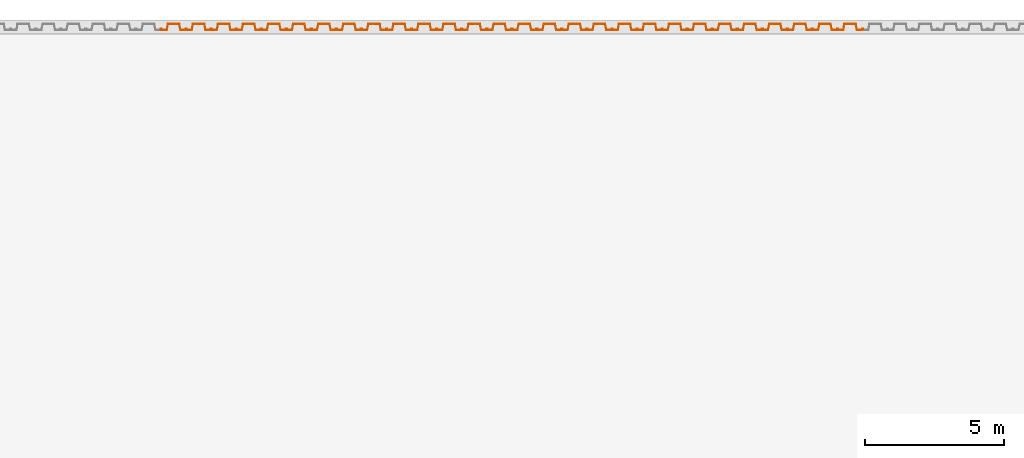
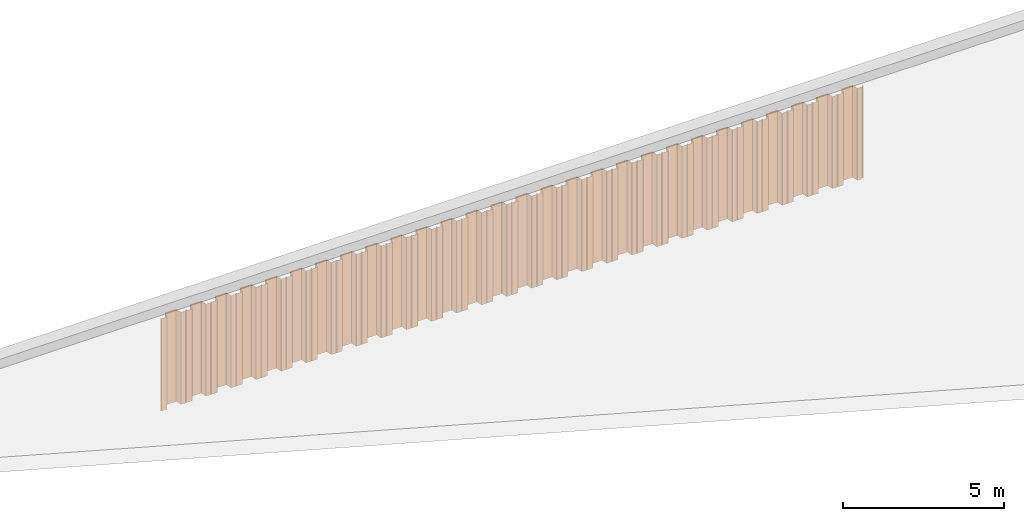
# One storey, part 16 of 32: 28 proxies.
"""IFC2X3 building model written with IfcOpenShell, lengths in millimetres."""

from ifc_helpers import new_model, entity, si_unit, converted_unit, derived_unit, direction, frame, frame_2d, origin, place, context, subcontext, project, spatial, polyline, circle_curve, parameter, trimmed, segment, composite_curve, outline, extrude, source, transform, mapped, type_object, type_shapes, element, save


model = new_model("IFC2X3")

# Units and contexts
model_context = context("Model", 3, precision=0.01, world=origin(), true_north=direction((6.12303176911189e-17, 1.0)))
body_context = subcontext(model_context, "Body", "Model", "MODEL_VIEW")
ifc_project = project(units=[si_unit("LENGTHUNIT", "METRE", prefix="MILLI"), si_unit("AREAUNIT", "SQUARE_METRE"), si_unit("VOLUMEUNIT", "CUBIC_METRE"), converted_unit("PLANEANGLEUNIT", "DEGREE", entity("IfcRatioMeasure", 0.0174532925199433), si_unit("PLANEANGLEUNIT", "RADIAN"), dimensions=[0, 0, 0, 0, 0, 0, 0]), si_unit("MASSUNIT", "GRAM", prefix="KILO"), derived_unit("MASSDENSITYUNIT", [(si_unit("MASSUNIT", "GRAM", prefix="KILO"), 1), (si_unit("LENGTHUNIT", "METRE"), -3)]), si_unit("TIMEUNIT", "SECOND"), si_unit("FREQUENCYUNIT", "HERTZ"), si_unit("THERMODYNAMICTEMPERATUREUNIT", "DEGREE_CELSIUS"), derived_unit("THERMALTRANSMITTANCEUNIT", [(si_unit("MASSUNIT", "GRAM", prefix="KILO"), 1), (si_unit("THERMODYNAMICTEMPERATUREUNIT", "KELVIN"), -1), (si_unit("TIMEUNIT", "SECOND"), -3)]), derived_unit("VOLUMETRICFLOWRATEUNIT", [(si_unit("LENGTHUNIT", "METRE"), 3), (si_unit("TIMEUNIT", "SECOND"), -1)]), si_unit("ELECTRICCURRENTUNIT", "AMPERE"), si_unit("ELECTRICVOLTAGEUNIT", "VOLT"), si_unit("POWERUNIT", "WATT"), si_unit("FORCEUNIT", "NEWTON", prefix="KILO"), si_unit("ILLUMINANCEUNIT", "LUX"), si_unit("LUMINOUSFLUXUNIT", "LUMEN"), si_unit("LUMINOUSINTENSITYUNIT", "CANDELA"), derived_unit("USERDEFINED", [(si_unit("MASSUNIT", "GRAM", prefix="KILO"), -1), (si_unit("LENGTHUNIT", "METRE"), -2), (si_unit("TIMEUNIT", "SECOND"), 3), (si_unit("LUMINOUSFLUXUNIT", "LUMEN"), 1)]), derived_unit("LINEARVELOCITYUNIT", [(si_unit("LENGTHUNIT", "METRE"), 1), (si_unit("TIMEUNIT", "SECOND"), -1)]), si_unit("PRESSUREUNIT", "PASCAL"), derived_unit("USERDEFINED", [(si_unit("LENGTHUNIT", "METRE"), -2), (si_unit("MASSUNIT", "GRAM", prefix="KILO"), 1), (si_unit("TIMEUNIT", "SECOND"), -2)])], contexts=[model_context])

# Site, building, storey
site_placement = place(None, origin())
site = spatial("IfcSite", under=ifc_project, at=site_placement, Name="Default", CompositionType="ELEMENT")
building_placement = place(site_placement, origin())
building = spatial("IfcBuilding", under=site, at=building_placement, CompositionType="ELEMENT")
storey_placement = place(building_placement, origin())
storey = spatial("IfcBuildingStorey", under=building, at=storey_placement, Name="矢板", CompositionType="ELEMENT", Elevation=0.0)

# Proxies
building_element_proxy_type = type_object("IfcBuildingElementProxyType", Name="鋼矢板10H型", PredefinedType="NOTDEFINED")
shared_shape = source(origin(), body_context, "Body", "SweptSolid", [
    extrude(outline(composite_curve([segment(trimmed(circle_curve(frame_2d((85.3662976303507, 306.644432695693), x_axis=(0.422618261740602, 0.906307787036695)), 13.885714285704), [parameter(24.9999999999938)], [parameter(90.0000000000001)], True, "PARAMETER"), True, "CONTINUOUS"), segment(polyline([(72.7815666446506, 312.512789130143), (9.8129512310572, 177.476157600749)]), True, "CONTINUOUS"), segment(trimmed(circle_curve(frame_2d((29.3891994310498, 168.347603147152), x_axis=(0.422618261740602, 0.906307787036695)), 21.6), [parameter(90.0000000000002)], [parameter(168.69006752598)], True, "PARAMETER"), True, "CONTINUOUS"), segment(polyline([(16.598697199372, 150.941769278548), (175.329723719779, 34.2998683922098)]), True, "CONTINUOUS"), segment(trimmed(circle_curve(frame_2d((168.93447260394, 25.596951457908), x_axis=(0.422618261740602, 0.906307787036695)), 10.7999999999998), [parameter(270.0)], [parameter(348.690067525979)], True, "PARAMETER"), False, "CONTINUOUS"), segment(polyline([(178.722596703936, 21.0326742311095), (18.2974003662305, -323.000269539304)]), True, "CONTINUOUS"), segment(trimmed(circle_curve(frame_2d((8.50927626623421, -318.435992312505), x_axis=(0.422618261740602, 0.906307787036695)), 10.8), [parameter(191.30993247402)], [parameter(269.999999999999)], True, "PARAMETER"), False, "CONTINUOUS"), segment(polyline([(5.95324328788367, -328.929166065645), (-185.429973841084, -282.310113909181)]), True, "CONTINUOUS"), segment(trimmed(circle_curve(frame_2d((-190.542039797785, -303.296461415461), x_axis=(0.422618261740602, 0.906307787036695)), 21.6000000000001), [parameter(11.3099324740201)], [parameter(90.0000000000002)], True, "PARAMETER"), True, "CONTINUOUS"), segment(polyline([(-210.118287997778, -294.167906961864), (-290.330886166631, -466.184378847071)]), True, "CONTINUOUS"), segment(trimmed(circle_curve(frame_2d((-270.754637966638, -475.312933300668), x_axis=(0.422618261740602, 0.906307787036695)), 21.6), [parameter(90.0000000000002)], [parameter(269.999999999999)], True, "PARAMETER"), True, "CONTINUOUS"), segment(polyline([(-251.178389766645, -484.441487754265), (-249.065298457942, -479.909948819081)]), True, "CONTINUOUS"), segment(polyline([(-249.065298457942, -479.909948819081), (-258.853422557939, -475.345671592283)]), True, "CONTINUOUS"), segment(polyline([(-258.853422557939, -475.345671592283), (-260.966513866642, -479.877210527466)]), True, "CONTINUOUS"), segment(trimmed(circle_curve(frame_2d((-270.754637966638, -475.312933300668), x_axis=(0.422618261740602, 0.906307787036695)), 10.8), [parameter(90.0000000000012)], [parameter(270.0)], True, "PARAMETER"), False, "CONTINUOUS"), segment(polyline([(-280.542762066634, -470.748656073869), (-200.330163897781, -298.732184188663)]), True, "CONTINUOUS"), segment(trimmed(circle_curve(frame_2d((-190.542039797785, -303.296461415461), x_axis=(0.422618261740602, 0.906307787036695)), 10.8), [parameter(11.3099324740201)], [parameter(89.9999999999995)], True, "PARAMETER"), False, "CONTINUOUS"), segment(polyline([(-187.986006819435, -292.803287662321), (3.39721030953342, -339.422339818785)]), True, "CONTINUOUS"), segment(trimmed(circle_curve(frame_2d((8.50927626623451, -318.435992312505), x_axis=(0.422618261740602, 0.906307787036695)), 21.6), [parameter(191.30993247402)], [parameter(270.0)], True, "PARAMETER"), True, "CONTINUOUS"), segment(polyline([(28.0855244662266, -327.564546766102), (188.510720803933, 16.4683970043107)]), True, "CONTINUOUS"), segment(trimmed(circle_curve(frame_2d((168.93447260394, 25.5969514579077), x_axis=(0.422618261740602, 0.906307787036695)), 21.6), [parameter(270.0)], [parameter(348.69006752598)], True, "PARAMETER"), True, "CONTINUOUS"), segment(polyline([(181.724974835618, 43.0027853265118), (22.9939483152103, 159.644686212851)]), True, "CONTINUOUS"), segment(trimmed(circle_curve(frame_2d((29.3891994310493, 168.347603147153), x_axis=(0.422618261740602, 0.906307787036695)), 10.7999999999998), [parameter(89.9999999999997)], [parameter(168.690067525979)], True, "PARAMETER"), False, "CONTINUOUS"), segment(polyline([(19.6010753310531, 172.911880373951), (82.5696907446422, 307.948511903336)]), True, "CONTINUOUS"), segment(trimmed(circle_curve(frame_2d((85.3662976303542, 306.64443269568), x_axis=(0.422618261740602, 0.906307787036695)), 3.08571428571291), [parameter(25.0000000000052)], [parameter(90.0000000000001)], True, "PARAMETER"), False, "CONTINUOUS"), segment(polyline([(85.3662976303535, 309.730146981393), (122.220231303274, 309.730146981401)]), True, "CONTINUOUS"), segment(trimmed(circle_curve(frame_2d((122.220231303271, 323.615861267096), x_axis=(0.422618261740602, 0.906307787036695)), 13.8857142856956), [parameter(205.000000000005)], [parameter(270.0)], True, "PARAMETER"), True, "CONTINUOUS"), segment(polyline([(134.804962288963, 317.747504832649), (141.079261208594, 331.202782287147)]), True, "CONTINUOUS"), segment(trimmed(circle_curve(frame_2d((121.503013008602, 340.331336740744), x_axis=(0.422618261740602, 0.906307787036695)), 21.6), [parameter(270.0)], [parameter(90.0000000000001)], True, "PARAMETER"), True, "CONTINUOUS"), segment(polyline([(101.926764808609, 349.459891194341), (99.8136734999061, 344.928352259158)]), True, "CONTINUOUS"), segment(polyline([(99.8136734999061, 344.928352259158), (109.601797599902, 340.364075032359)]), True, "CONTINUOUS"), segment(polyline([(109.601797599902, 340.364075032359), (111.714888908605, 344.895613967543)]), True, "CONTINUOUS"), segment(trimmed(circle_curve(frame_2d((121.503013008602, 340.331336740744), x_axis=(0.422618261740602, 0.906307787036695)), 10.8), [parameter(270.0)], [parameter(89.9999999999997)], True, "PARAMETER"), False, "CONTINUOUS"), segment(polyline([(131.291137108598, 335.767059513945), (125.01683818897, 322.311782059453)]), True, "CONTINUOUS"), segment(trimmed(circle_curve(frame_2d((122.220231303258, 323.615861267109), x_axis=(0.422618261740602, 0.906307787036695)), 3.08571428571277), [parameter(204.999999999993)], [parameter(270.0)], True, "PARAMETER"), False, "CONTINUOUS"), segment(polyline([(122.220231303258, 320.530146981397), (85.3662976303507, 320.530146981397)]), True, "CONTINUOUS")], self_intersect=False)), frame((95.205667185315, -48.8888888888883, -3500.0), z_axis=(0.0, 0.0, -1.0), x_axis=(0.4226182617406, 0.906307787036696, 0.0)), (0.0, 0.0, -1.0), 3500.0),
])
type_shapes(building_element_proxy_type, [shared_shape])
for number, where in (
    (1, (-20902.5000000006, 28702.0, 7600.0)),
    (2, (-21802.5000000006, 28702.0, 7600.0)),
    (3, (-22702.5000000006, 28702.0, 7600.0)),
    (4, (-23602.5000000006, 28702.0, 7600.0)),
    (5, (-24502.5000000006, 28702.0, 7600.0)),
    (6, (-25402.5000000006, 28702.0, 7600.0)),
    (7, (-26302.5000000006, 28702.0, 7600.0)),
    (8, (-27202.5000000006, 28702.0, 7600.0)),
    (9, (-28102.5000000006, 28702.0, 7600.0)),
    (10, (-29002.5000000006, 28702.0, 7600.0)),
    (11, (-29902.5000000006, 28702.0, 7600.0)),
    (12, (-30802.5000000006, 28702.0, 7600.0)),
    (13, (-31702.5000000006, 28702.0, 7600.0)),
    (14, (-32602.5000000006, 28702.0, 7600.0)),
    (15, (-33502.5000000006, 28702.0, 7600.0)),
    (16, (-34402.5000000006, 28702.0, 7600.0)),
    (17, (-35302.5000000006, 28702.0, 7600.0)),
    (18, (-36202.5000000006, 28702.0, 7600.0)),
    (19, (-37102.5000000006, 28702.0, 7600.0)),
    (20, (-38002.5000000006, 28702.0, 7600.0)),
    (21, (-38902.5000000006, 28702.0, 7600.0)),
    (22, (-39802.5000000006, 28702.0, 7600.0)),
    (23, (-40702.5000000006, 28702.0, 7600.0)),
    (24, (-41602.5000000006, 28702.0, 7600.0)),
    (25, (-42502.5000000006, 28702.0, 7600.0)),
    (26, (-43402.5000000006, 28702.0, 7600.0)),
    (27, (-44302.5000000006, 28702.0, 7600.0)),
    (28, (-45202.5000000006, 28702.0, 7600.0)),
):
    element("IfcBuildingElementProxy", number, at=place(storey_placement, frame(where)), inside=storey, type_object=building_element_proxy_type, Name="鋼矢板10H型:鋼矢板10H型", ObjectType="鋼矢板10H型:鋼矢板10H型", context=body_context, shape_type="MappedRepresentation", body=[
        mapped(shared_shape, transform((0.0, 0.0, 0.0), scale=1.0)),
    ])

save(model, "model.ifc")
